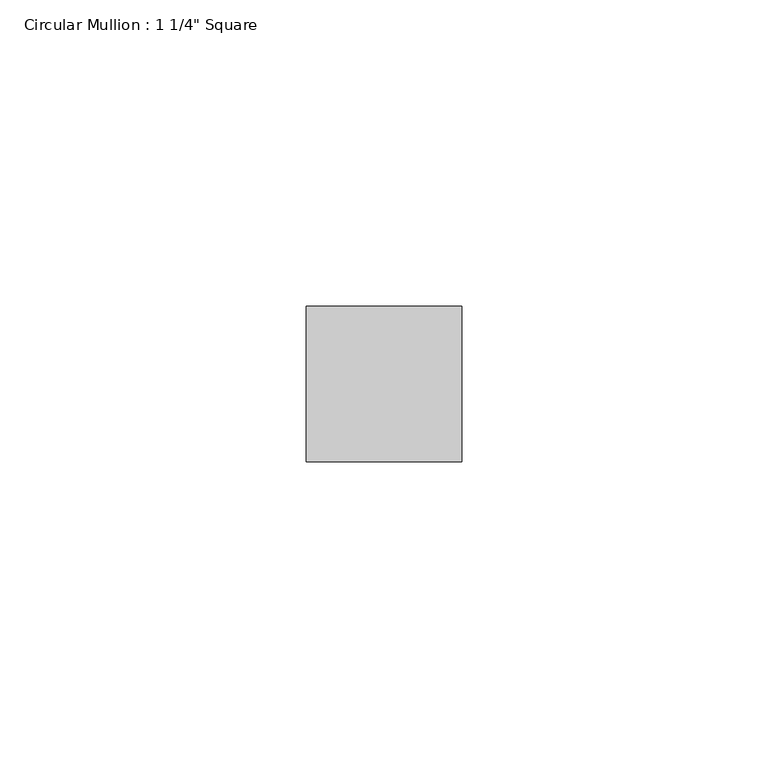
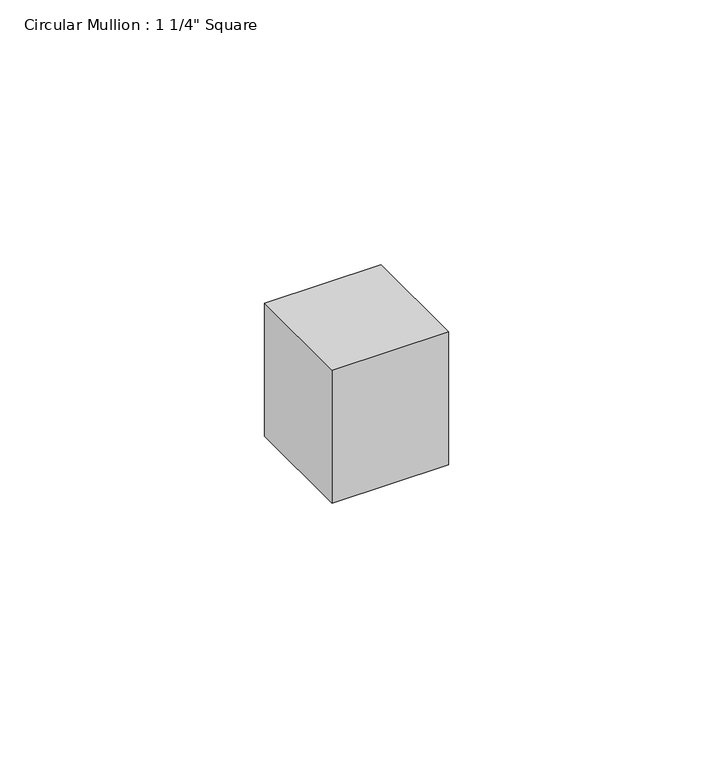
"""IFC4 building model written with IfcOpenShell, lengths in millimetres: member geometry."""

import ifcopenshell
import ifcopenshell.guid

model = None  # the IFC model being written
_history = None  # IfcOwnerHistory: only IFC2X3 demands one
_inside = {}  # id of a spatial element -> (the spatial element, [elements in it])
_under = {}  # id of a project, library or spatial element -> (it, [spatial elements below it])
_declared = {}  # id of a project -> (the project, [libraries it declares])
_typed = {}  # id of a type object -> (the type object, [elements of that type])
_made_of = {}  # id of a material, layer set ... -> (it, [elements and type objects made of it])


def new_model(schema):
    """Start an empty IFC model of exactly this schema.

    Asked for "IFC4X3", IfcOpenShell would pick the latest addendum, in which some entities
    have other attributes; the version numbers below select the first issue.
    IFC2X3 requires an IfcOwnerHistory on every rooted entity: one is made here for all.
    """
    global model, _history
    if schema == "IFC4X3":
        model = ifcopenshell.file(schema_version=(4, 3, 0, 0))
    else:
        model = ifcopenshell.file(schema=schema)
    _inside.clear()
    _under.clear()
    _declared.clear()
    _typed.clear()
    _made_of.clear()
    _history = None
    if model.schema == "IFC2X3":
        org = make("IfcOrganization", Name="unknown")
        user = make(
            "IfcPersonAndOrganization",
            ThePerson=make("IfcPerson", FamilyName="unknown"),
            TheOrganization=org,
        )
        app = make(
            "IfcApplication",
            ApplicationDeveloper=org,
            Version="unknown",
            ApplicationFullName="unknown",
            ApplicationIdentifier="unknown",
        )
        _history = make(
            "IfcOwnerHistory",
            OwningUser=user,
            OwningApplication=app,
            ChangeAction="ADDED",
            CreationDate=0,
        )
    return model


def make(cls, **values):
    """One entity of the class cls with the attributes given. An attribute that is None is left unset."""
    return model.create_entity(
        cls, **{name: value for name, value in values.items() if value is not None}
    )


def rooted(cls, **values):
    """An entity with a GlobalId (a new one), such as an element, a storey or a relation."""
    return make(cls, GlobalId=ifcopenshell.guid.new(), OwnerHistory=_history, **values)


def si_unit(unit_type, name, prefix=None):
    """IfcSIUnit, for example si_unit("LENGTHUNIT", "METRE", prefix="MILLI")."""
    return make("IfcSIUnit", UnitType=unit_type, Prefix=prefix, Name=name)


def assignment(units):
    """IfcUnitAssignment: the units of a project."""
    return None if units is None else make("IfcUnitAssignment", Units=units)


def point(xyz):
    """IfcCartesianPoint."""
    return None if xyz is None else make("IfcCartesianPoint", Coordinates=xyz)


def direction(xyz):
    """IfcDirection."""
    return None if xyz is None else make("IfcDirection", DirectionRatios=xyz)


def frame(location, z_axis=None, x_axis=None):
    """IfcAxis2Placement3D, a coordinate frame: its origin and axes. An axis left out is left unset."""
    return make(
        "IfcAxis2Placement3D",
        Location=point(location),
        Axis=direction(z_axis),
        RefDirection=direction(x_axis),
    )


def origin():
    """The frame at (0, 0, 0) with its axes left unset."""
    return frame((0.0, 0.0, 0.0))


def place(relative_to, where):
    """IfcLocalPlacement: puts the frame where relative to a parent placement (None: the world)."""
    return make(
        "IfcLocalPlacement", PlacementRelTo=relative_to, RelativePlacement=where
    )


def context(
    kind, dimensions, precision=None, world=None, true_north=None, identifier=None
):
    """IfcGeometricRepresentationContext, for example the 3D "Model" context."""
    return make(
        "IfcGeometricRepresentationContext",
        ContextIdentifier=identifier,
        ContextType=kind,
        CoordinateSpaceDimension=dimensions,
        Precision=precision,
        WorldCoordinateSystem=world,
        TrueNorth=true_north,
    )


def project(units=None, contexts=None):
    """IfcProject with its units and contexts."""
    return rooted(
        "IfcProject",
        Name="project",
        RepresentationContexts=contexts,
        UnitsInContext=assignment(units),
    )


def spatial(cls, under=None, at=None, **own):
    """A site, building, storey or space (cls), placed at a placement, below another one or the project."""
    s = rooted(cls, ObjectPlacement=at, **own)
    if under is not None:
        _under.setdefault(under.id(), (under, []))[1].append(s)
    return s


def polyline(points):
    """IfcPolyline through the points."""
    return make("IfcPolyline", Points=[point(p) for p in points])


def outline(outer, holes=None, kind="AREA"):
    """IfcArbitraryClosedProfileDef: a profile drawn as a closed curve; with holes, ...WithVoids."""
    if holes is None:
        return make("IfcArbitraryClosedProfileDef", ProfileType=kind, OuterCurve=outer)
    return make(
        "IfcArbitraryProfileDefWithVoids",
        ProfileType=kind,
        OuterCurve=outer,
        InnerCurves=holes,
    )


def extrude(swept, where, along, depth):
    """IfcExtrudedAreaSolid: the profile swept, set in the frame where, extruded along a direction by depth."""
    return make(
        "IfcExtrudedAreaSolid",
        SweptArea=swept,
        Position=where,
        ExtrudedDirection=direction(along),
        Depth=depth,
    )


def shape(context_of_items, identifier, shape_type, items):
    """IfcShapeRepresentation: the items that make up one representation, for example the "Body"."""
    return make(
        "IfcShapeRepresentation",
        ContextOfItems=context_of_items,
        RepresentationIdentifier=identifier,
        RepresentationType=shape_type,
        Items=items,
    )


def source(mapping_origin, context_of_items, identifier, shape_type, items):
    """IfcRepresentationMap: a shape defined once, which mapped items show again and again."""
    return make(
        "IfcRepresentationMap",
        MappingOrigin=mapping_origin,
        MappedRepresentation=shape(context_of_items, identifier, shape_type, items),
    )


def transform(
    local_origin,
    x_axis=None,
    y_axis=None,
    z_axis=None,
    scale=None,
    scale2=None,
    scale3=None,
    uniform=True,
):
    """IfcCartesianTransformationOperator3D, or its non-uniform kind. x_axis, y_axis, z_axis: its Axis1, 2, 3."""
    if uniform:
        return make(
            "IfcCartesianTransformationOperator3D",
            Axis1=direction(x_axis),
            Axis2=direction(y_axis),
            LocalOrigin=point(local_origin),
            Scale=scale,
            Axis3=direction(z_axis),
        )
    return make(
        "IfcCartesianTransformationOperator3DnonUniform",
        Axis1=direction(x_axis),
        Axis2=direction(y_axis),
        LocalOrigin=point(local_origin),
        Scale=scale,
        Axis3=direction(z_axis),
        Scale2=scale2,
        Scale3=scale3,
    )


def mapped(mapping_source, mapping_target):
    """IfcMappedItem: shows the shape of a source again, moved by a transform."""
    return make(
        "IfcMappedItem", MappingSource=mapping_source, MappingTarget=mapping_target
    )


def made_of(thing, what):
    """Note that an element or type object is made of a material, layer set ...; save() writes the relation."""
    if what is not None:
        _made_of.setdefault(what.id(), (what, []))[1].append(thing)
    return thing


def element(
    cls,
    number,
    at=None,
    inside=None,
    cuts=None,
    type_object=None,
    material=None,
    context=None,
    identifier="Body",
    shape_type=None,
    held_by="IfcProductDefinitionShape",
    body=None,
    shapes=None,
    **own,
):
    """One element of the class cls, such as IfcWall. Its Tag is "e" and its number.

    at: its placement. inside: the storey or other place that contains it. cuts: it is an
    opening in that element (IfcRelVoidsElement). A single representation is given by context,
    identifier, shape_type and body (its items); several are given by shapes. held_by: the class
    of the entity that holds the representations. save() writes the other relations.
    """
    e = rooted(cls, Tag="e%d" % number, ObjectPlacement=at, **own)
    if body is not None:
        shapes = [shape(context, identifier, shape_type, body)]
    if shapes is not None:
        e.Representation = make(held_by, Representations=shapes)
    if inside is not None:
        _inside.setdefault(inside.id(), (inside, []))[1].append(e)
    if cuts is not None:
        rooted(
            "IfcRelVoidsElement", RelatingBuildingElement=cuts, RelatedOpeningElement=e
        )
    if type_object is not None:
        _typed.setdefault(type_object.id(), (type_object, []))[1].append(e)
    return made_of(e, material)


def aggregate(whole, parts):
    """IfcRelAggregates: a whole, such as a stair, and the parts it consists of."""
    return rooted("IfcRelAggregates", RelatingObject=whole, RelatedObjects=parts)


def save(model, path):
    """Write the relations noted so far, then the file.

    IfcRelAggregates (storeys below a building ...), IfcRelContainedInSpatialStructure (elements
    in a storey), IfcRelDefinesByType, IfcRelAssociatesMaterial and IfcRelDeclares: one each for
    every whole, place, type object, material and project.
    """
    for whole, parts in _under.values():
        aggregate(whole, parts)
    for where, things in _inside.values():
        rooted(
            "IfcRelContainedInSpatialStructure",
            RelatedElements=things,
            RelatingStructure=where,
        )
    for kind, things in _typed.values():
        rooted("IfcRelDefinesByType", RelatedObjects=things, RelatingType=kind)
    for what, things in _made_of.values():
        rooted("IfcRelAssociatesMaterial", RelatedObjects=things, RelatingMaterial=what)
    for by, libraries in _declared.values():
        rooted("IfcRelDeclares", RelatingContext=by, RelatedDefinitions=libraries)
    model.write(path)


def member_8f0442da(model_context):
    return source(origin(), model_context, "Body", "SweptSolid", [
        extrude(outline(polyline([(0.0, 12.7), (0.0, -12.7), (-25.4, -12.7), (-25.4, 12.7), (0.0, 12.7)])), frame((0.0, 0.0, -30.6587755), z_axis=(0.0, 0.0, 1.0), x_axis=(1.0, 0.0, 0.0)), (0.0, 0.0, 1.0), 30.6587755),
    ])


if __name__ == "__main__":
    model = new_model("IFC4")
    model_context = context("Model", 3, world=origin())
    ifc_project = project(units=[si_unit("LENGTHUNIT", "METRE", prefix="MILLI")], contexts=[model_context])
    site = spatial("IfcSite", under=ifc_project)
    building = spatial("IfcBuilding", under=site)
    placement = place(None, origin())
    member_shape = member_8f0442da(model_context)
    element("IfcMember", 1, ObjectType="Circular Mullion : 1 1/4\" Square", at=placement, inside=building, context=model_context, shape_type="MappedRepresentation", body=[
        mapped(member_shape, transform((0.0, 0.0, 0.0), x_axis=(1.0, 0.0, 0.0), y_axis=(0.0, 1.0, 0.0), z_axis=(0.0, 0.0, 1.0))),
    ])
    save(model, "model.ifc")
